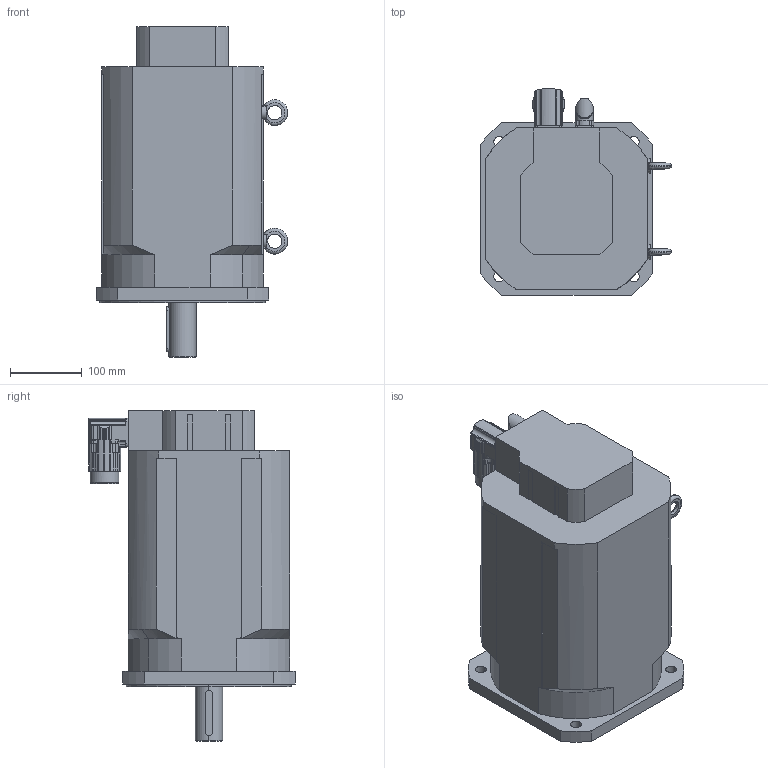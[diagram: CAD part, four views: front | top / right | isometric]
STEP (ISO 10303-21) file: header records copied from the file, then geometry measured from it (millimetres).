
FILE_DESCRIPTION(('STEP AP203'),'2;1');
FILE_NAME('MT8-0400_BX.stp','2006-08-28T20:57:05',(''),(''),'2005.2.102','THINKDESIGN','');
FILE_SCHEMA(('CONFIG_CONTROL_DESIGN'));
Length unit declared in the file: millimetre
Bounding box: 266.5 x 287.18 x 461 mm (x, y, z)
Volume: 16764613.2 mm3; surface area: 466955 mm2
Topology: 5 solids, 5 shells, 534 faces, 1442 edges, 929 vertices
Faces by surface type: cylinder 259, plane 194, bspline 81
Full cylindrical faces by diameter (mm): 20 x2, 23 x1, 37.8 x1, 40 x1
Entity records: 19287 total; most frequent: CARTESIAN_POINT 5926, ORIENTED_EDGE 2872, DIRECTION 2774, EDGE_CURVE 1436, AXIS2_PLACEMENT_3D 1055, VERTEX_POINT 929, VECTOR 664, LINE 664
